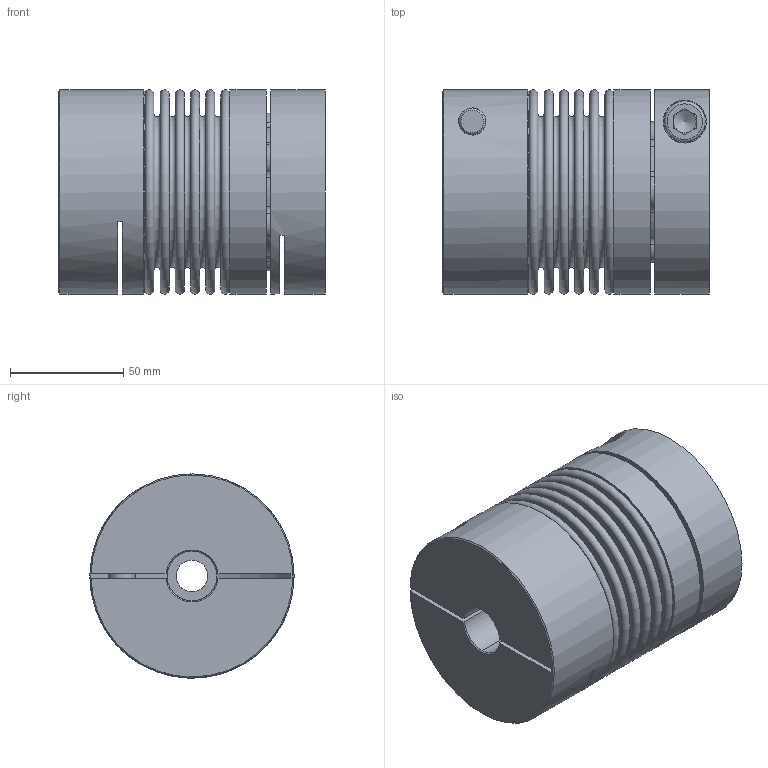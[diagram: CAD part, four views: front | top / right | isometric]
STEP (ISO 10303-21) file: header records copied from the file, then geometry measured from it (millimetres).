
FILE_DESCRIPTION( ( 'Unknown' ), '1' );
FILE_NAME( 'C:/Users/skarpstein/Desktop/KB4P/KB4P/KB4P-200-117.stp', 'Unknown', ( 'Unknown' ), ( 'Unknown' ), 'PSStep 16.0.42', 'Unknown', ' ' );
FILE_SCHEMA( ( 'AUTOMOTIVE_DESIGN { 1 0 10303 214 1 1 1 1 }' ) );
Length unit declared in the file: millimetre
Products named in the file (6): Assem1; KN200_Standard_2; Socket Head Cap Screw_DIN_DIN 912 M12 x 35 --- 35N_2; Stecknabe KB4P-200; Balgaufnahme KB4P-200; BL200_Standard_0
Assembly tree (6 placements, depth 2):
  Assem1
    KN200_Standard_2
    Socket Head Cap Screw_DIN_DIN 912 M12 x 35 --- 35N_2  x2
    Stecknabe KB4P-200
    Balgaufnahme KB4P-200
    BL200_Standard_0
Bounding box: 117.45 x 90 x 90 mm (x, y, z)
Volume: 481768.8 mm3; surface area: 170962.3 mm2
Topology: 6 solids, 6 shells, 188 faces, 428 edges, 279 vertices
Faces by surface type: plane 77, cone 56, torus 29, cylinder 26
Full cylindrical faces by diameter (mm): 10.106 x1, 12 x3, 12.5 x2, 14 x1, 18 x2, 19 x2, 22 x1, 79.2 x2, 80.4 x2, 90 x3
Entity records: 6286 total; most frequent: CARTESIAN_POINT 1124, DIRECTION 856, ORIENTED_EDGE 642, AXIS2_PLACEMENT_3D 376, EDGE_CURVE 321, EDGE_LOOP 254, VERTEX_POINT 252, FACE_OUTER_BOUND 209
